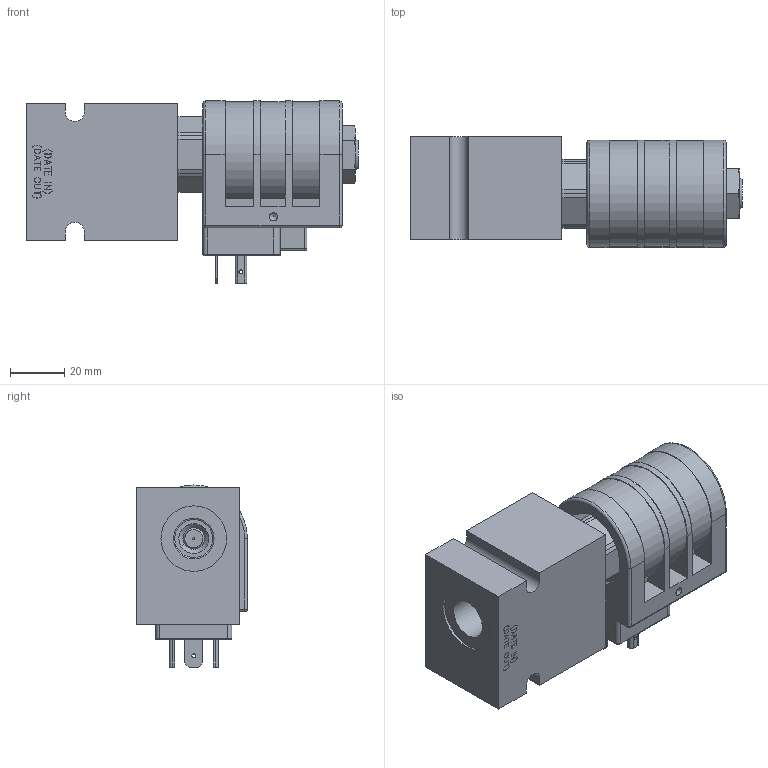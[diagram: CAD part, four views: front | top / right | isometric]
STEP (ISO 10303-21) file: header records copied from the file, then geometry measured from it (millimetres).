
FILE_DESCRIPTION( ( 'Unknown' ), '1' );
FILE_NAME( 'G:/Graphic Design/Graphic Design 2/Data Sheets/SOLENOID OPERATED VALVES/4_STEP/2W2P Normally Closed/HE-S2G00-B2.stp', 'Unknown', ( 'Unknown' ), ( 'Unknown' ), 'PSStep 15.0.49', 'Unknown', ' ' );
FILE_SCHEMA( ( 'AUTOMOTIVE_DESIGN { 1 0 10303 214 1 1 1 1 }' ) );
Length unit declared in the file: millimetre
Products named in the file (16): D-HE-S2A-00; HES2A00-3D Full2; HES2A00-3D Full3; HES2A00-3D Full4; HES2A00-3D Full1; Delta_1_2_nut1 - Copy; D-LHC12 or 24; LHC-Body; LHC-Disc; PT-EL-HC-TerminalConnectors; Assem1; B-D-DE-B2_
Assembly tree (16 placements, depth 3):
  Assem1
    B-D-DE-B2_
    D-HE-S2A-00
      HES2A00-3D Full2
      HES2A00-3D Full3
      HES2A00-3D Full4
      HES2A00-3D Full1
      HES2A00-3D Full1
      Delta_1_2_nut1 - Copy
    D-LHC12 or 24
      LHC-Body
      LHC-Disc  x2
      PT-EL-HC-TerminalConnectors
      PT-EL-HC-TerminalConnectors
      PT-EL-HC-TerminalConnectors
      PT-EL-HC-TerminalConnectors
Bounding box: 122.5 x 40.9 x 67.2 mm (x, y, z)
Volume: 166691.2 mm3; surface area: 47869.8 mm2
Topology: 12 solids, 179 shells, 949 faces, 2896 edges, 2184 vertices
Faces by surface type: plane 573, cylinder 128, extrusion 118, cone 106, torus 18, sphere 6
Full cylindrical faces by diameter (mm): 1 x1, 1.5 x3, 2.5 x1, 3 x2, 13.043 x1, 14 x2, 15 x4, 15.735 x1, 15.9 x1, 16.1 x3, 17.043 x1, 20.262 x2, 24.2 x2, 29.85 x2, 30.175 x1, 32 x2
Entity records: 44208 total; most frequent: CARTESIAN_POINT 13043, ORIENTED_EDGE 4808, DIRECTION 3934, EDGE_CURVE 2812, VERTEX_POINT 2161, VECTOR 1390, AXIS2_PLACEMENT_3D 1272, LINE 1272
